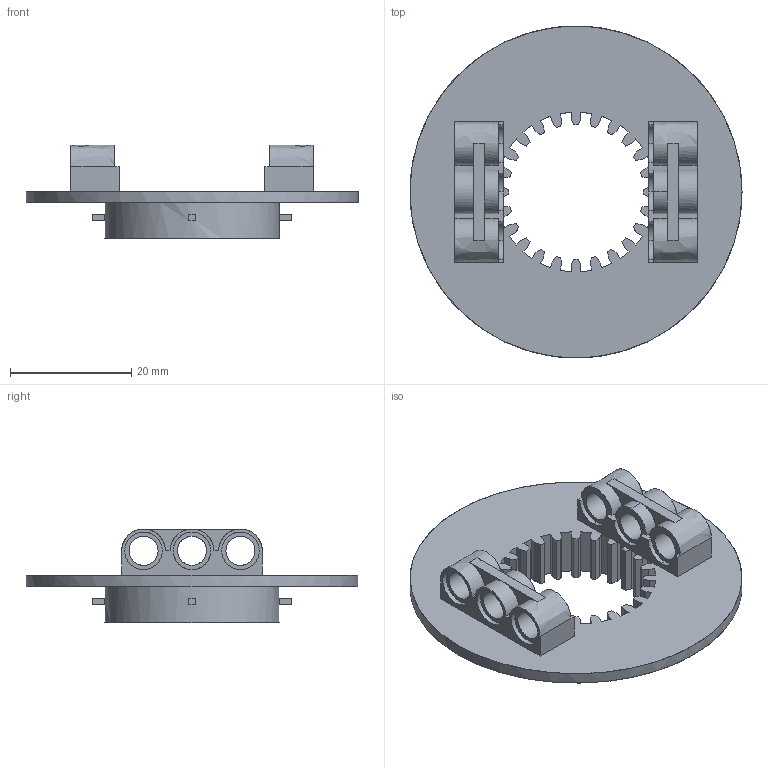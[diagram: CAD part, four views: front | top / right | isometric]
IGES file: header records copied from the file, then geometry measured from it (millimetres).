
Start section: C
Global section: file name: ClGray_4624645_a)_JCA.iges; native system: By Siemens PLM Incorporated; preprocessor: XPlus GENERIC/IGES 26.1.183; author: Author; organization: Title; date: 20250721.235743; units: millimetre
Bounding box: 54.8 x 54.78 x 15.5 mm (x, y, z)
Surface area: 7419.5 mm2 (no closed solid volume)
Topology: 0 solids, 0 shells, 258 faces, 1482 edges, 1482 vertices
Faces by surface type: bspline 258
